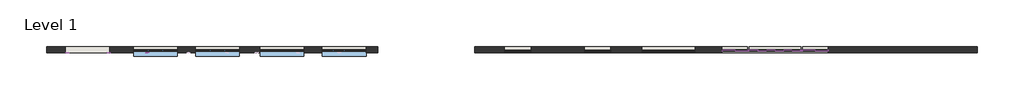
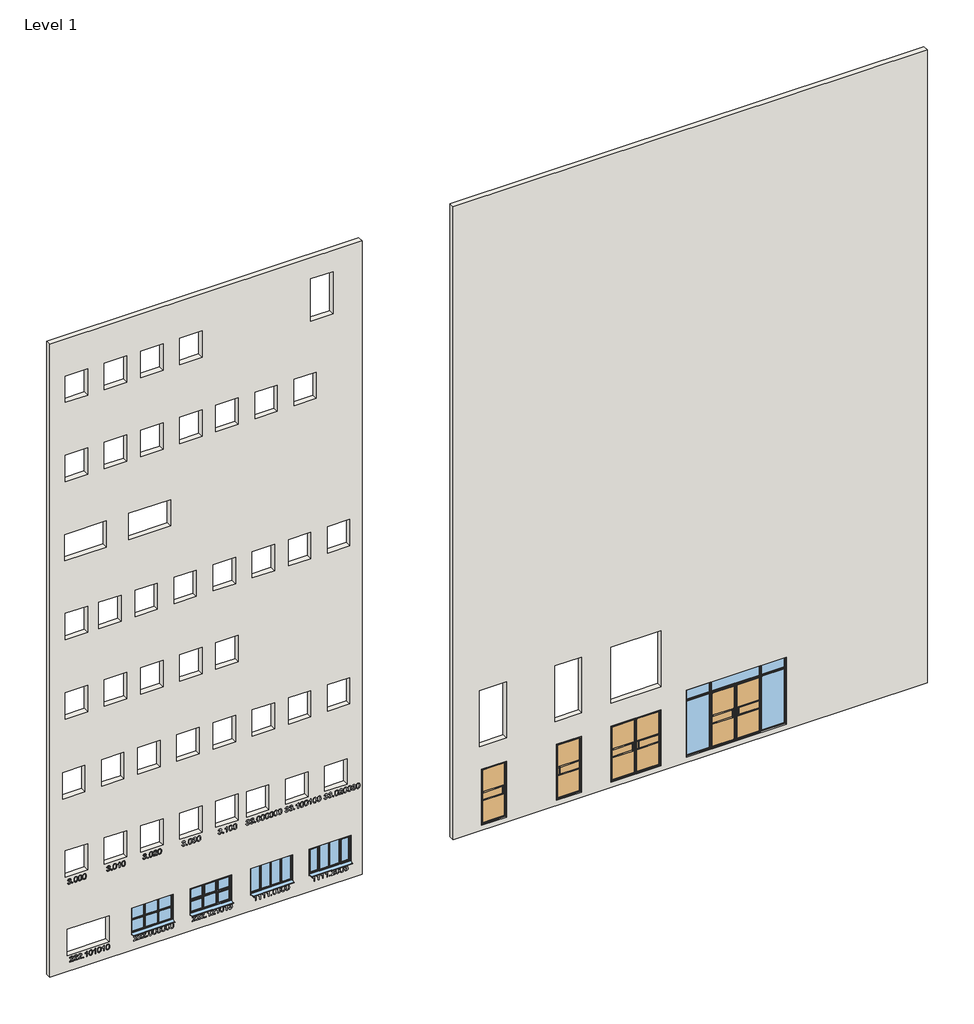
# One storey, part 1 of 3: 9 windows, 4 doors, 4 proxies, 2 walls.
"""IFC4 building model written with IfcOpenShell, lengths in millimetres."""

from ifc_helpers import new_model, si_unit, frame, origin, place, context, project, spatial, polyline, outline, extrude, transform, mapped, element, save
from components import double_445c4c4e, double_5f8e8586, lefthung_f528802b, righthung_34a7d7e6, standard_2bda3373, standard_ae8fd62b, standard_7249c8dd, standard_2_70366785, standard_2_7d086ee7, standard_2_23cd1c4a, standard_2_e57bb09f, standard_2_e56fe06b

model = new_model("IFC4")

# Units and contexts
model_context = context("Model", 3, world=origin())
ifc_project = project(units=[si_unit("LENGTHUNIT", "METRE", prefix="MILLI")], contexts=[model_context])

# Site, building, storey
site = spatial("IfcSite", under=ifc_project)
building = spatial("IfcBuilding", under=site)
storey = spatial("IfcBuildingStorey", under=building, Name="Level 1", Elevation=0.0)

# Proxies
placement = place(None, origin())
element("IfcBuildingElementProxy", 1, Name="200mm Arial", ObjectType="200mm Arial", at=placement, inside=storey, context=model_context, shape_type="SweptSolid", body=[
    extrude(outline(polyline([(3021.5066745, -171148.5681121), (2998.8083554, -171142.3509064), (2980.7453494, -171128.6043825), (2968.9363373, -171108.8368566), (2965.0, -171084.5566449), (2969.6107877, -171057.713522), (2983.4431507, -171035.9471706), (3003.8973896, -171021.5261964), (3028.373805, -171016.719205), (3046.3509719, -171019.1227007), (3061.0417262, -171026.3331878), (3071.8574569, -171037.9827843), (3078.2095526, -171053.7036082), (3085.456828, -171041.7351807), (3094.8378188, -171033.1022165), (3105.8497532, -171027.8782922), (3117.9898591, -171026.1369841), (3131.0190131, -171027.9702627), (3143.3246658, -171033.4700985), (3154.0055064, -171042.4341565), (3162.1602239, -171054.6601014), (3167.328966, -171069.1607834), (3169.05188, -171084.9490524), (3165.557001, -171106.8748193), (3155.0723642, -171124.8765116), (3138.2356315, -171138.0344243), (3115.6844652, -171145.4288524), (3112.5452055, -171120.3147748), (3126.2794667, -171115.8634027), (3136.0896532, -171108.0029907), (3141.9757651, -171097.236311), (3143.9378025, -171084.0661356), (3141.9941592, -171070.9204856), (3136.1632296, -171060.423586), (3127.3647186, -171053.5441927), (3116.5183311, -171051.2510616), (3103.4953085, -171054.4148468), (3094.3473095, -171063.9062022), (3088.9394442, -171077.3584205), (3087.1368224, -171092.4047941), (3087.431128, -171096.4269706), (3062.3170505, -171099.2228738), (3065.0639027, -171081.6135889), (3062.4948601, -171065.8191886), (3054.7877323, -171053.0659461), (3043.1565299, -171044.6414484), (3028.8152634, -171041.8332825), (3013.7075762, -171044.6659739), (3001.2486393, -171053.164048), (2992.897718, -171066.4568507), (2990.1140775, -171083.6737281), (2992.1374285, -171098.3460884), (2998.2074814, -171109.597146), (3008.8637966, -171117.8315714), (3024.6459342, -171123.4540345), (3021.5066745, -171148.5681121)])), frame((0.0, 24202.6264647, 0.0), z_axis=(0.0, 1.0, 0.0), x_axis=(0.0, 0.0, 1.0)), (0.0, 0.0, 1.0), 10.0),
    extrude(outline(polyline([(-170957.0732708, 24202.6264647), (-170982.1873484, 24202.6264647), (-170982.1873484, 24212.6264647), (-170957.0732708, 24212.6264647), (-170957.0732708, 24202.6264647)])), frame((0.0, 0.0, 2968.1392597), z_axis=(0.0, 0.0, 1.0), x_axis=(1.0, 0.0, 0.0)), (0.0, 0.0, 1.0), 25.1140775),
    extrude(outline(polyline([(3066.9768891, -170916.2628949), (3018.1098974, -170911.2596997), (2999.2590108, -170905.0057058), (2984.1298637, -170896.2501143), (2969.7824659, -170876.4335375), (2965.0, -170850.3384413), (2967.7529836, -170830.0374865), (2976.0119344, -170813.5747673), (2989.8688229, -170800.8399189), (3009.4156196, -170791.7225768), (3035.0018123, -170786.241135), (3066.9768891, -170784.4139878), (3114.1884118, -170788.9757245), (3143.913277, -170800.7479484), (3154.6738253, -170809.4177007), (3162.5771569, -170821.0059836), (3167.4331992, -170834.8628721), (3169.05188, -170850.3384413), (3166.3172905, -170870.5290315), (3158.113522, -170886.9549626), (3144.3118158, -170899.7082051), (3124.7834132, -170908.8807295), (3099.1359068, -170914.4173535), (3066.9768891, -170916.2628949)]), holes=[polyline([(3067.02594, -170891.1488173), (3106.0214315, -170888.1076595), (3130.4978469, -170878.984186), (3140.5778136, -170866.3535708), (3143.9378025, -170850.6327469), (3140.1240924, -170834.0290062), (3128.6829624, -170820.9078817), (3105.6412868, -170812.3730194), (3067.02594, -170809.5280653), (3027.5828587, -170812.4711213), (3004.70673, -170821.3002892), (2993.7622407, -170834.4459391), (2990.1140775, -170850.3384413), (2993.7499779, -170866.2309435), (3004.6576791, -170879.3765935), (3027.5215451, -170888.2057614), (3067.02594, -170891.1488173)])]), frame((0.0, 24202.6264647, 0.0), z_axis=(0.0, 1.0, 0.0), x_axis=(0.0, 0.0, 1.0)), (0.0, 0.0, 1.0), 10.0),
    extrude(outline(polyline([(3066.9768891, -170762.4391699), (3018.1098974, -170757.4359748), (2999.2590108, -170751.1819809), (2984.1298637, -170742.4263894), (2969.7824659, -170722.6098126), (2965.0, -170696.5147164), (2967.7529836, -170676.2137616), (2976.0119344, -170659.7510423), (2989.8688229, -170647.0161939), (3009.4156196, -170637.8988518), (3035.0018123, -170632.4174101), (3066.9768891, -170630.5902629), (3114.1884118, -170635.1519996), (3143.913277, -170646.9242234), (3154.6738253, -170655.5939758), (3162.5771569, -170667.1822587), (3167.4331992, -170681.0391471), (3169.05188, -170696.5147164), (3166.3172905, -170716.7053066), (3158.113522, -170733.1312377), (3144.3118158, -170745.8844802), (3124.7834132, -170755.0570046), (3099.1359068, -170760.5936286), (3066.9768891, -170762.4391699)]), holes=[polyline([(3067.02594, -170737.3250924), (3106.0214315, -170734.2839346), (3130.4978469, -170725.1604611), (3140.5778136, -170712.5298459), (3143.9378025, -170696.809022), (3140.1240924, -170680.2052813), (3128.6829624, -170667.0841568), (3105.6412868, -170658.5492945), (3067.02594, -170655.7043404), (3027.5828587, -170658.6473964), (3004.70673, -170667.4765642), (2993.7622407, -170680.6222142), (2990.1140775, -170696.5147164), (2993.7499779, -170712.4072186), (3004.6576791, -170725.5528686), (3027.5215451, -170734.3820364), (3067.02594, -170737.3250924)])]), frame((0.0, 24202.6264647, 0.0), z_axis=(0.0, 1.0, 0.0), x_axis=(0.0, 0.0, 1.0)), (0.0, 0.0, 1.0), 10.0),
    extrude(outline(polyline([(3066.9768891, -170608.615445), (3018.1098974, -170603.6122499), (2999.2590108, -170597.358256), (2984.1298637, -170588.6026645), (2969.7824659, -170568.7860877), (2965.0, -170542.6909915), (2967.7529836, -170522.3900367), (2976.0119344, -170505.9273174), (2989.8688229, -170493.192469), (3009.4156196, -170484.0751269), (3035.0018123, -170478.5936852), (3066.9768891, -170476.7665379), (3114.1884118, -170481.3282747), (3143.913277, -170493.1004985), (3154.6738253, -170501.7702509), (3162.5771569, -170513.3585337), (3167.4331992, -170527.2154222), (3169.05188, -170542.6909915), (3166.3172905, -170562.8815817), (3158.113522, -170579.3075127), (3144.3118158, -170592.0607552), (3124.7834132, -170601.2332796), (3099.1359068, -170606.7699037), (3066.9768891, -170608.615445)]), holes=[polyline([(3067.02594, -170583.5013675), (3106.0214315, -170580.4602097), (3130.4978469, -170571.3367362), (3140.5778136, -170558.706121), (3143.9378025, -170542.9852971), (3140.1240924, -170526.3815564), (3128.6829624, -170513.2604319), (3105.6412868, -170504.7255696), (3067.02594, -170501.8806155), (3027.5828587, -170504.8236714), (3004.70673, -170513.6528393), (2993.7622407, -170526.7984893), (2990.1140775, -170542.6909915), (2993.7499779, -170558.5834937), (3004.6576791, -170571.7291436), (3027.5215451, -170580.5583115), (3067.02594, -170583.5013675)])]), frame((0.0, 24202.6264647, 0.0), z_axis=(0.0, 1.0, 0.0), x_axis=(0.0, 0.0, 1.0)), (0.0, 0.0, 1.0), 10.0),
])
element("IfcBuildingElementProxy", 2, Name="200mm Arial", ObjectType="200mm Arial", at=placement, inside=storey, context=model_context, shape_type="SweptSolid", body=[
    extrude(outline(polyline([(3021.5066745, -169748.5681121), (2998.8083554, -169742.3509064), (2980.7453494, -169728.6043825), (2968.9363373, -169708.8368566), (2965.0, -169684.5566449), (2969.6107877, -169657.713522), (2983.4431507, -169635.9471706), (3003.8973896, -169621.5261964), (3028.373805, -169616.719205), (3046.3509719, -169619.1227007), (3061.0417262, -169626.3331878), (3071.8574569, -169637.9827843), (3078.2095526, -169653.7036082), (3085.456828, -169641.7351807), (3094.8378188, -169633.1022165), (3105.8497532, -169627.8782922), (3117.9898591, -169626.1369841), (3131.0190131, -169627.9702627), (3143.3246658, -169633.4700985), (3154.0055064, -169642.4341565), (3162.1602239, -169654.6601014), (3167.328966, -169669.1607834), (3169.05188, -169684.9490524), (3165.557001, -169706.8748193), (3155.0723642, -169724.8765116), (3138.2356315, -169738.0344243), (3115.6844652, -169745.4288524), (3112.5452055, -169720.3147748), (3126.2794667, -169715.8634027), (3136.0896532, -169708.0029907), (3141.9757651, -169697.236311), (3143.9378025, -169684.0661356), (3141.9941592, -169670.9204856), (3136.1632296, -169660.423586), (3127.3647186, -169653.5441927), (3116.5183311, -169651.2510616), (3103.4953085, -169654.4148468), (3094.3473095, -169663.9062022), (3088.9394442, -169677.3584205), (3087.1368224, -169692.4047941), (3087.431128, -169696.4269706), (3062.3170505, -169699.2228738), (3065.0639027, -169681.6135889), (3062.4948601, -169665.8191886), (3054.7877323, -169653.0659461), (3043.1565299, -169644.6414484), (3028.8152634, -169641.8332825), (3013.7075762, -169644.6659739), (3001.2486393, -169653.164048), (2992.897718, -169666.4568507), (2990.1140775, -169683.6737281), (2992.1374285, -169698.3460884), (2998.2074814, -169709.597146), (3008.8637966, -169717.8315714), (3024.6459342, -169723.4540345), (3021.5066745, -169748.5681121)])), frame((0.0, 24202.6264647, 0.0), z_axis=(0.0, 1.0, 0.0), x_axis=(0.0, 0.0, 1.0)), (0.0, 0.0, 1.0), 10.0),
    extrude(outline(polyline([(-169557.0732708, 24202.6264647), (-169582.1873484, 24202.6264647), (-169582.1873484, 24212.6264647), (-169557.0732708, 24212.6264647), (-169557.0732708, 24202.6264647)])), frame((0.0, 0.0, 2968.1392597), z_axis=(0.0, 0.0, 1.0), x_axis=(1.0, 0.0, 0.0)), (0.0, 0.0, 1.0), 25.1140775),
    extrude(outline(polyline([(3066.9768891, -169516.2628949), (3018.1098974, -169511.2596997), (2999.2590108, -169505.0057058), (2984.1298637, -169496.2501143), (2969.7824659, -169476.4335375), (2965.0, -169450.3384413), (2967.7529836, -169430.0374865), (2976.0119344, -169413.5747673), (2989.8688229, -169400.8399189), (3009.4156196, -169391.7225768), (3035.0018123, -169386.241135), (3066.9768891, -169384.4139878), (3114.1884118, -169388.9757245), (3143.913277, -169400.7479484), (3154.6738253, -169409.4177007), (3162.5771569, -169421.0059836), (3167.4331992, -169434.8628721), (3169.05188, -169450.3384413), (3166.3172905, -169470.5290315), (3158.113522, -169486.9549626), (3144.3118158, -169499.7082051), (3124.7834132, -169508.8807295), (3099.1359068, -169514.4173535), (3066.9768891, -169516.2628949)]), holes=[polyline([(3067.02594, -169491.1488173), (3106.0214315, -169488.1076595), (3130.4978469, -169478.984186), (3140.5778136, -169466.3535708), (3143.9378025, -169450.6327469), (3140.1240924, -169434.0290062), (3128.6829624, -169420.9078817), (3105.6412868, -169412.3730194), (3067.02594, -169409.5280653), (3027.5828587, -169412.4711213), (3004.70673, -169421.3002892), (2993.7622407, -169434.4459391), (2990.1140775, -169450.3384413), (2993.7499779, -169466.2309435), (3004.6576791, -169479.3765935), (3027.5215451, -169488.2057614), (3067.02594, -169491.1488173)])]), frame((0.0, 24202.6264647, 0.0), z_axis=(0.0, 1.0, 0.0), x_axis=(0.0, 0.0, 1.0)), (0.0, 0.0, 1.0), 10.0),
    extrude(outline(polyline([(2968.1392597, -169268.2613792), (3169.05188, -169268.2613792), (3169.05188, -169284.448187), (3155.8939673, -169293.3202744), (3142.3191217, -169306.7908868), (3118.8237249, -169343.6036118), (3095.0830735, -169343.6036118), (3107.7627396, -169317.1651591), (3124.7098368, -169293.3754567), (2968.1392597, -169293.3754567), (2968.1392597, -169268.2613792)])), frame((0.0, 24202.6264647, 0.0), z_axis=(0.0, 1.0, 0.0), x_axis=(0.0, 0.0, 1.0)), (0.0, 0.0, 1.0), 10.0),
    extrude(outline(polyline([(3066.9768891, -169208.615445), (3018.1098974, -169203.6122499), (2999.2590108, -169197.358256), (2984.1298637, -169188.6026645), (2969.7824659, -169168.7860877), (2965.0, -169142.6909915), (2967.7529836, -169122.3900367), (2976.0119344, -169105.9273174), (2989.8688229, -169093.192469), (3009.4156196, -169084.0751269), (3035.0018123, -169078.5936852), (3066.9768891, -169076.7665379), (3114.1884118, -169081.3282747), (3143.913277, -169093.1004985), (3154.6738253, -169101.7702509), (3162.5771569, -169113.3585337), (3167.4331992, -169127.2154222), (3169.05188, -169142.6909915), (3166.3172905, -169162.8815817), (3158.113522, -169179.3075127), (3144.3118158, -169192.0607552), (3124.7834132, -169201.2332796), (3099.1359068, -169206.7699037), (3066.9768891, -169208.615445)]), holes=[polyline([(3067.02594, -169183.5013675), (3106.0214315, -169180.4602097), (3130.4978469, -169171.3367362), (3140.5778136, -169158.706121), (3143.9378025, -169142.9852971), (3140.1240924, -169126.3815564), (3128.6829624, -169113.2604319), (3105.6412868, -169104.7255696), (3067.02594, -169101.8806155), (3027.5828587, -169104.8236714), (3004.70673, -169113.6528393), (2993.7622407, -169126.7984893), (2990.1140775, -169142.6909915), (2993.7499779, -169158.5834937), (3004.6576791, -169171.7291436), (3027.5215451, -169180.5583115), (3067.02594, -169183.5013675)])]), frame((0.0, 24202.6264647, 0.0), z_axis=(0.0, 1.0, 0.0), x_axis=(0.0, 0.0, 1.0)), (0.0, 0.0, 1.0), 10.0),
])
element("IfcBuildingElementProxy", 3, Name="200mm Arial", ObjectType="200mm Arial", at=placement, inside=storey, context=model_context, shape_type="SweptSolid", body=[
    extrude(outline(polyline([(3021.5066745, -168448.5681121), (2998.8083554, -168442.3509064), (2980.7453494, -168428.6043825), (2968.9363373, -168408.8368566), (2965.0, -168384.5566449), (2969.6107877, -168357.713522), (2983.4431507, -168335.9471706), (3003.8973896, -168321.5261964), (3028.373805, -168316.719205), (3046.3509719, -168319.1227007), (3061.0417262, -168326.3331878), (3071.8574569, -168337.9827843), (3078.2095526, -168353.7036082), (3085.456828, -168341.7351807), (3094.8378188, -168333.1022165), (3105.8497532, -168327.8782922), (3117.9898591, -168326.1369841), (3131.0190131, -168327.9702627), (3143.3246658, -168333.4700985), (3154.0055064, -168342.4341565), (3162.1602239, -168354.6601014), (3167.328966, -168369.1607834), (3169.05188, -168384.9490524), (3165.557001, -168406.8748193), (3155.0723642, -168424.8765116), (3138.2356315, -168438.0344243), (3115.6844652, -168445.4288524), (3112.5452055, -168420.3147748), (3126.2794667, -168415.8634027), (3136.0896532, -168408.0029907), (3141.9757651, -168397.236311), (3143.9378025, -168384.0661356), (3141.9941592, -168370.9204856), (3136.1632296, -168360.423586), (3127.3647186, -168353.5441927), (3116.5183311, -168351.2510616), (3103.4953085, -168354.4148468), (3094.3473095, -168363.9062022), (3088.9394442, -168377.3584205), (3087.1368224, -168392.4047941), (3087.431128, -168396.4269706), (3062.3170505, -168399.2228738), (3065.0639027, -168381.6135889), (3062.4948601, -168365.8191886), (3054.7877323, -168353.0659461), (3043.1565299, -168344.6414484), (3028.8152634, -168341.8332825), (3013.7075762, -168344.6659739), (3001.2486393, -168353.164048), (2992.897718, -168366.4568507), (2990.1140775, -168383.6737281), (2992.1374285, -168398.3460884), (2998.2074814, -168409.597146), (3008.8637966, -168417.8315714), (3024.6459342, -168423.4540345), (3021.5066745, -168448.5681121)])), frame((0.0, 24202.6264647, 0.0), z_axis=(0.0, 1.0, 0.0), x_axis=(0.0, 0.0, 1.0)), (0.0, 0.0, 1.0), 10.0),
    extrude(outline(polyline([(-168257.0732708, 24202.6264647), (-168282.1873484, 24202.6264647), (-168282.1873484, 24212.6264647), (-168257.0732708, 24212.6264647), (-168257.0732708, 24202.6264647)])), frame((0.0, 0.0, 2968.1392597), z_axis=(0.0, 0.0, 1.0), x_axis=(1.0, 0.0, 0.0)), (0.0, 0.0, 1.0), 25.1140775),
    extrude(outline(polyline([(3066.9768891, -168216.2628949), (3018.1098974, -168211.2596997), (2999.2590108, -168205.0057058), (2984.1298637, -168196.2501143), (2969.7824659, -168176.4335375), (2965.0, -168150.3384413), (2967.7529836, -168130.0374865), (2976.0119344, -168113.5747673), (2989.8688229, -168100.8399189), (3009.4156196, -168091.7225768), (3035.0018123, -168086.241135), (3066.9768891, -168084.4139878), (3114.1884118, -168088.9757245), (3143.913277, -168100.7479484), (3154.6738253, -168109.4177007), (3162.5771569, -168121.0059836), (3167.4331992, -168134.8628721), (3169.05188, -168150.3384413), (3166.3172905, -168170.5290315), (3158.113522, -168186.9549626), (3144.3118158, -168199.7082051), (3124.7834132, -168208.8807295), (3099.1359068, -168214.4173535), (3066.9768891, -168216.2628949)]), holes=[polyline([(3067.02594, -168191.1488173), (3106.0214315, -168188.1076595), (3130.4978469, -168178.984186), (3140.5778136, -168166.3535708), (3143.9378025, -168150.6327469), (3140.1240924, -168134.0290062), (3128.6829624, -168120.9078817), (3105.6412868, -168112.3730194), (3067.02594, -168109.5280653), (3027.5828587, -168112.4711213), (3004.70673, -168121.3002892), (2993.7622407, -168134.4459391), (2990.1140775, -168150.3384413), (2993.7499779, -168166.2309435), (3004.6576791, -168179.3765935), (3027.5215451, -168188.2057614), (3067.02594, -168191.1488173)])]), frame((0.0, 24202.6264647, 0.0), z_axis=(0.0, 1.0, 0.0), x_axis=(0.0, 0.0, 1.0)), (0.0, 0.0, 1.0), 10.0),
    extrude(outline(polyline([(2993.2533372, -167933.7295226), (2993.2533372, -168032.3709482), (3006.0311052, -168021.0401827), (3030.1886895, -167992.1491834), (3064.5979188, -167956.1703243), (3089.221487, -167941.3324171), (3113.0357149, -167936.8687822), (3134.9369563, -167941.0074547), (3152.9631741, -167953.423472), (3165.0297035, -167972.9396119), (3169.05188, -167998.3786518), (3165.4343737, -168023.6337508), (3154.5818548, -168043.1866789), (3136.8376799, -168056.3507229), (3112.5452055, -168062.4391699), (3109.4059458, -168037.3250924), (3123.8391828, -168034.608897), (3134.765278, -168026.7546164), (3141.6446714, -168014.5838537), (3143.9378025, -167998.9182121), (3141.5894891, -167984.0005972), (3134.5445488, -167972.2099793), (3124.0905688, -167964.5396397), (3111.5151359, -167961.9828598), (3097.4865692, -167964.6929238), (3083.065595, -167972.8231159), (3041.2251494, -168016.1841404), (3012.1134208, -168047.6257883), (2985.4542389, -168062.8806283), (2968.1392597, -168065.5784296), (2968.1392597, -167933.7295226), (2993.2533372, -167933.7295226)])), frame((0.0, 24202.6264647, 0.0), z_axis=(0.0, 1.0, 0.0), x_axis=(0.0, 0.0, 1.0)), (0.0, 0.0, 1.0), 10.0),
    extrude(outline(polyline([(3066.9768891, -167908.615445), (3018.1098974, -167903.6122499), (2999.2590108, -167897.358256), (2984.1298637, -167888.6026645), (2969.7824659, -167868.7860877), (2965.0, -167842.6909915), (2967.7529836, -167822.3900367), (2976.0119344, -167805.9273174), (2989.8688229, -167793.192469), (3009.4156196, -167784.0751269), (3035.0018123, -167778.5936852), (3066.9768891, -167776.7665379), (3114.1884118, -167781.3282747), (3143.913277, -167793.1004985), (3154.6738253, -167801.7702509), (3162.5771569, -167813.3585337), (3167.4331992, -167827.2154222), (3169.05188, -167842.6909915), (3166.3172905, -167862.8815817), (3158.113522, -167879.3075127), (3144.3118158, -167892.0607552), (3124.7834132, -167901.2332796), (3099.1359068, -167906.7699037), (3066.9768891, -167908.615445)]), holes=[polyline([(3067.02594, -167883.5013675), (3106.0214315, -167880.4602097), (3130.4978469, -167871.3367362), (3140.5778136, -167858.706121), (3143.9378025, -167842.9852971), (3140.1240924, -167826.3815564), (3128.6829624, -167813.2604319), (3105.6412868, -167804.7255696), (3067.02594, -167801.8806155), (3027.5828587, -167804.8236714), (3004.70673, -167813.6528393), (2993.7622407, -167826.7984893), (2990.1140775, -167842.6909915), (2993.7499779, -167858.5834937), (3004.6576791, -167871.7291436), (3027.5215451, -167880.5583115), (3067.02594, -167883.5013675)])]), frame((0.0, 24202.6264647, 0.0), z_axis=(0.0, 1.0, 0.0), x_axis=(0.0, 0.0, 1.0)), (0.0, 0.0, 1.0), 10.0),
])
element("IfcBuildingElementProxy", 4, Name="200mm Arial", ObjectType="200mm Arial", at=placement, inside=storey, context=model_context, shape_type="SweptSolid", body=[
    extrude(outline(polyline([(28.2533372, -170948.8584647), (28.2533372, -171047.4998903), (41.0311052, -171036.1691249), (65.1886895, -171007.2781255), (99.5979188, -170971.2992664), (124.221487, -170956.4613593), (148.0357149, -170951.9977244), (169.9369563, -170956.1363968), (187.9631741, -170968.5524142), (200.0297035, -170988.068554), (204.05188, -171013.507594), (200.4343737, -171038.7626929), (189.5818548, -171058.315621), (171.8376799, -171071.4796651), (147.5452055, -171077.5681121), (144.4059458, -171052.4540345), (158.8391828, -171049.7378391), (169.765278, -171041.8835585), (176.6446714, -171029.7127959), (178.9378025, -171014.0471542), (176.5894891, -170999.1295393), (169.5445488, -170987.3389214), (159.0905688, -170979.6685818), (146.5151359, -170977.1118019), (132.4865692, -170979.821866), (118.065595, -170987.952058), (76.2251494, -171031.3130825), (47.1134208, -171062.7547304), (20.4542389, -171078.0095705), (3.1392597, -171080.7073718), (3.1392597, -170948.8584647), (28.2533372, -170948.8584647)])), frame((0.0, 24202.6264647, 0.0), z_axis=(0.0, 1.0, 0.0), x_axis=(0.0, 0.0, 1.0)), (0.0, 0.0, 1.0), 10.0),
    extrude(outline(polyline([(28.2533372, -170795.0347398), (28.2533372, -170893.6761654), (41.0311052, -170882.3454), (65.1886895, -170853.4544006), (99.5979188, -170817.4755415), (124.221487, -170802.6376343), (148.0357149, -170798.1739995), (169.9369563, -170802.3126719), (187.9631741, -170814.7286893), (200.0297035, -170834.2448291), (204.05188, -170859.6838691), (200.4343737, -170884.938968), (189.5818548, -170904.4918961), (171.8376799, -170917.6559401), (147.5452055, -170923.7443872), (144.4059458, -170898.6303096), (158.8391828, -170895.9141142), (169.765278, -170888.0598336), (176.6446714, -170875.8890709), (178.9378025, -170860.2234293), (176.5894891, -170845.3058144), (169.5445488, -170833.5151965), (159.0905688, -170825.8448569), (146.5151359, -170823.288077), (132.4865692, -170825.998141), (118.065595, -170834.1283331), (76.2251494, -170877.4893576), (47.1134208, -170908.9310055), (20.4542389, -170924.1858455), (3.1392597, -170926.8836468), (3.1392597, -170795.0347398), (28.2533372, -170795.0347398)])), frame((0.0, 24202.6264647, 0.0), z_axis=(0.0, 1.0, 0.0), x_axis=(0.0, 0.0, 1.0)), (0.0, 0.0, 1.0), 10.0),
    extrude(outline(polyline([(28.2533372, -170641.2110149), (28.2533372, -170739.8524405), (41.0311052, -170728.521675), (65.1886895, -170699.6306757), (99.5979188, -170663.6518166), (124.221487, -170648.8139094), (148.0357149, -170644.3502746), (169.9369563, -170648.488947), (187.9631741, -170660.9049643), (200.0297035, -170680.4211042), (204.05188, -170705.8601441), (200.4343737, -170731.1152431), (189.5818548, -170750.6681712), (171.8376799, -170763.8322152), (147.5452055, -170769.9206622), (144.4059458, -170744.8065847), (158.8391828, -170742.0903893), (169.765278, -170734.2361087), (176.6446714, -170722.065346), (178.9378025, -170706.3997044), (176.5894891, -170691.4820895), (169.5445488, -170679.6914716), (159.0905688, -170672.021132), (146.5151359, -170669.4643521), (132.4865692, -170672.1744161), (118.065595, -170680.3046082), (76.2251494, -170723.6656327), (47.1134208, -170755.1072806), (20.4542389, -170770.3621206), (3.1392597, -170773.0599219), (3.1392597, -170641.2110149), (28.2533372, -170641.2110149)])), frame((0.0, 24202.6264647, 0.0), z_axis=(0.0, 1.0, 0.0), x_axis=(0.0, 0.0, 1.0)), (0.0, 0.0, 1.0), 10.0),
    extrude(outline(polyline([(-170578.425821, 24202.6264647), (-170603.5398986, 24202.6264647), (-170603.5398986, 24212.6264647), (-170578.425821, 24212.6264647), (-170578.425821, 24202.6264647)])), frame((0.0, 0.0, 3.1392597), z_axis=(0.0, 0.0, 1.0), x_axis=(1.0, 0.0, 0.0)), (0.0, 0.0, 1.0), 25.1140775),
    extrude(outline(polyline([(3.1392597, -170443.4376543), (204.05188, -170443.4376543), (204.05188, -170459.624462), (190.8939673, -170468.4965495), (177.3191217, -170481.9671619), (153.8237249, -170518.7798869), (130.0830735, -170518.7798869), (142.7627396, -170492.3414341), (159.7098368, -170468.5517318), (3.1392597, -170468.5517318), (3.1392597, -170443.4376543)])), frame((0.0, 24202.6264647, 0.0), z_axis=(0.0, 1.0, 0.0), x_axis=(0.0, 0.0, 1.0)), (0.0, 0.0, 1.0), 10.0),
    extrude(outline(polyline([(101.9768891, -170383.7917201), (53.1098974, -170378.788525), (34.2590108, -170372.534531), (19.1298637, -170363.7789396), (4.7824659, -170343.9623628), (0.0, -170317.8672666), (2.7529836, -170297.5663118), (11.0119344, -170281.1035925), (24.8688229, -170268.3687441), (44.4156196, -170259.251402), (70.0018123, -170253.7699603), (101.9768891, -170251.942813), (149.1884118, -170256.5045498), (178.913277, -170268.2767736), (189.6738253, -170276.946526), (197.5771569, -170288.5348088), (202.4331992, -170302.3916973), (204.05188, -170317.8672666), (201.3172905, -170338.0578567), (193.113522, -170354.4837878), (179.3118158, -170367.2370303), (159.7834132, -170376.4095547), (134.1359068, -170381.9461788), (101.9768891, -170383.7917201)]), holes=[polyline([(102.02594, -170358.6776426), (141.0214315, -170355.6364847), (165.4978469, -170346.5130113), (175.5778136, -170333.8823961), (178.9378025, -170318.1615722), (175.1240924, -170301.5578314), (163.6829624, -170288.436707), (140.6412868, -170279.9018447), (102.02594, -170277.0568906), (62.5828587, -170279.9999465), (39.70673, -170288.8291144), (28.7622407, -170301.9747644), (25.1140775, -170317.8672666), (28.7499779, -170333.7597688), (39.6576791, -170346.9054187), (62.5215451, -170355.7345866), (102.02594, -170358.6776426)])]), frame((0.0, 24202.6264647, 0.0), z_axis=(0.0, 1.0, 0.0), x_axis=(0.0, 0.0, 1.0)), (0.0, 0.0, 1.0), 10.0),
    extrude(outline(polyline([(3.1392597, -170135.7902044), (204.05188, -170135.7902044), (204.05188, -170151.9770122), (190.8939673, -170160.8490997), (177.3191217, -170174.319712), (153.8237249, -170211.132437), (130.0830735, -170211.132437), (142.7627396, -170184.6939843), (159.7098368, -170160.904282), (3.1392597, -170160.904282), (3.1392597, -170135.7902044)])), frame((0.0, 24202.6264647, 0.0), z_axis=(0.0, 1.0, 0.0), x_axis=(0.0, 0.0, 1.0)), (0.0, 0.0, 1.0), 10.0),
    extrude(outline(polyline([(101.9768891, -170076.1442703), (53.1098974, -170071.1410751), (34.2590108, -170064.8870812), (19.1298637, -170056.1314897), (4.7824659, -170036.3149129), (0.0, -170010.2198167), (2.7529836, -169989.918862), (11.0119344, -169973.4561427), (24.8688229, -169960.7212943), (44.4156196, -169951.6039522), (70.0018123, -169946.1225104), (101.9768891, -169944.2953632), (149.1884118, -169948.8570999), (178.913277, -169960.6293238), (189.6738253, -169969.2990761), (197.5771569, -169980.887359), (202.4331992, -169994.7442475), (204.05188, -170010.2198167), (201.3172905, -170030.4104069), (193.113522, -170046.836338), (179.3118158, -170059.5895805), (159.7834132, -170068.7621049), (134.1359068, -170074.2987289), (101.9768891, -170076.1442703)]), holes=[polyline([(102.02594, -170051.0301927), (141.0214315, -170047.9890349), (165.4978469, -170038.8655614), (175.5778136, -170026.2349463), (178.9378025, -170010.5141223), (175.1240924, -169993.9103816), (163.6829624, -169980.7892571), (140.6412868, -169972.2543948), (102.02594, -169969.4094407), (62.5828587, -169972.3524967), (39.70673, -169981.1816646), (28.7622407, -169994.3273145), (25.1140775, -170010.2198167), (28.7499779, -170026.1123189), (39.6576791, -170039.2579689), (62.5215451, -170048.0871368), (102.02594, -170051.0301927)])]), frame((0.0, 24202.6264647, 0.0), z_axis=(0.0, 1.0, 0.0), x_axis=(0.0, 0.0, 1.0)), (0.0, 0.0, 1.0), 10.0),
    extrude(outline(polyline([(3.1392597, -169828.1427546), (204.05188, -169828.1427546), (204.05188, -169844.3295624), (190.8939673, -169853.2016498), (177.3191217, -169866.6722622), (153.8237249, -169903.4849872), (130.0830735, -169903.4849872), (142.7627396, -169877.0465345), (159.7098368, -169853.2568321), (3.1392597, -169853.2568321), (3.1392597, -169828.1427546)])), frame((0.0, 24202.6264647, 0.0), z_axis=(0.0, 1.0, 0.0), x_axis=(0.0, 0.0, 1.0)), (0.0, 0.0, 1.0), 10.0),
    extrude(outline(polyline([(101.9768891, -169768.4968204), (53.1098974, -169763.4936253), (34.2590108, -169757.2396314), (19.1298637, -169748.4840399), (4.7824659, -169728.6674631), (0.0, -169702.5723669), (2.7529836, -169682.2714121), (11.0119344, -169665.8086928), (24.8688229, -169653.0738444), (44.4156196, -169643.9565023), (70.0018123, -169638.4750606), (101.9768891, -169636.6479134), (149.1884118, -169641.2096501), (178.913277, -169652.9818739), (189.6738253, -169661.6516263), (197.5771569, -169673.2399092), (202.4331992, -169687.0967976), (204.05188, -169702.5723669), (201.3172905, -169722.7629571), (193.113522, -169739.1888882), (179.3118158, -169751.9421307), (159.7834132, -169761.1146551), (134.1359068, -169766.6512791), (101.9768891, -169768.4968204)]), holes=[polyline([(102.02594, -169743.3827429), (141.0214315, -169740.3415851), (165.4978469, -169731.2181116), (175.5778136, -169718.5874964), (178.9378025, -169702.8666725), (175.1240924, -169686.2629318), (163.6829624, -169673.1418073), (140.6412868, -169664.606945), (102.02594, -169661.7619909), (62.5828587, -169664.7050469), (39.70673, -169673.5342147), (28.7622407, -169686.6798647), (25.1140775, -169702.5723669), (28.7499779, -169718.4648691), (39.6576791, -169731.6105191), (62.5215451, -169740.4396869), (102.02594, -169743.3827429)])]), frame((0.0, 24202.6264647, 0.0), z_axis=(0.0, 1.0, 0.0), x_axis=(0.0, 0.0, 1.0)), (0.0, 0.0, 1.0), 10.0),
])

# Doors
double_shape = double_445c4c4e(model_context)
element("IfcDoor", 5, ObjectType="SMARTS_HeritageDoor : Double", at=placement, inside=storey, context=model_context, shape_type="MappedRepresentation", body=[
    mapped(double_shape, transform((-147151.6821009, 24312.6264647, -785.0), x_axis=(1.0, 0.0, 0.0), y_axis=(0.0, 1.0, 0.0), z_axis=(0.0, 0.0, 1.0))),
])
double_2_shape = double_5f8e8586(model_context)
element("IfcDoor", 6, ObjectType="SMARTS_HeritageDoor : Double", at=placement, inside=storey, context=model_context, shape_type="MappedRepresentation", body=[
    mapped(double_2_shape, transform((-150751.6821009, 24312.6264647, -785.0), x_axis=(1.0, 0.0, 0.0), y_axis=(0.0, 1.0, 0.0), z_axis=(0.0, 0.0, 1.0))),
])
lefthung_shape = lefthung_f528802b(model_context)
element("IfcDoor", 7, ObjectType="SMARTS_HeritageDoor : LeftHung", at=placement, inside=storey, context=model_context, shape_type="MappedRepresentation", body=[
    mapped(lefthung_shape, transform((-155851.6821009, 24312.6264647, -785.0), x_axis=(1.0, 0.0, 0.0), y_axis=(0.0, 1.0, 0.0), z_axis=(0.0, 0.0, 1.0))),
])
righthung_shape = righthung_34a7d7e6(model_context)
element("IfcDoor", 8, ObjectType="SMARTS_HeritageDoor : RightHung", at=placement, inside=storey, context=model_context, shape_type="MappedRepresentation", body=[
    mapped(righthung_shape, transform((-153151.6821009, 24312.6264647, -785.0), x_axis=(1.0, 0.0, 0.0), y_axis=(0.0, 1.0, 0.0), z_axis=(0.0, 0.0, 1.0))),
])

# Walls
element("IfcWall", 9, ObjectType="Generic - 200mm", at=placement, inside=storey, context=model_context, shape_type="SweptSolid", body=[
    extrude(outline(polyline([(-331.1815188, -171783.3801149), (-331.1815188, -160583.3801149), (23668.8184812, -160583.3801149), (23668.8184812, -171783.3801149), (-331.1815188, -171783.3801149)]), holes=[polyline([(1268.8184812, -169652.3801149), (268.8184812, -169652.3801149), (268.8184812, -171152.3801149), (1268.8184812, -171152.3801149), (1268.8184812, -169652.3801149)]), polyline([(13268.8184812, -170423.3801149), (12268.8184812, -170423.3801149), (12268.8184812, -171223.3801149), (13268.8184812, -171223.3801149), (13268.8184812, -170423.3801149)]), polyline([(13268.8184812, -169223.3801149), (12268.8184812, -169223.3801149), (12268.8184812, -170023.3801149), (13268.8184812, -170023.3801149), (13268.8184812, -169223.3801149)]), polyline([(13268.8184812, -167923.3801149), (12268.8184812, -167923.3801149), (12268.8184812, -168723.3801149), (13268.8184812, -168723.3801149), (13268.8184812, -167923.3801149)]), polyline([(13268.8184812, -166523.3801149), (12268.8184812, -166523.3801149), (12268.8184812, -167323.3801149), (13268.8184812, -167323.3801149), (13268.8184812, -166523.3801149)]), polyline([(13268.8184812, -165123.3801149), (12268.8184812, -165123.3801149), (12268.8184812, -165923.3801149), (13268.8184812, -165923.3801149), (13268.8184812, -165123.3801149)]), polyline([(13268.8184812, -163723.3801149), (12268.8184812, -163723.3801149), (12268.8184812, -164523.3801149), (13268.8184812, -164523.3801149), (13268.8184812, -163723.3801149)]), polyline([(13268.8184812, -162423.3801149), (12268.8184812, -162423.3801149), (12268.8184812, -163223.3801149), (13268.8184812, -163223.3801149), (13268.8184812, -162423.3801149)]), polyline([(13268.8184812, -161023.3801149), (12268.8184812, -161023.3801149), (12268.8184812, -161823.3801149), (13268.8184812, -161823.3801149), (13268.8184812, -161023.3801149)]), polyline([(4268.8184812, -170423.3801149), (3268.8184812, -170423.3801149), (3268.8184812, -171223.3801149), (4268.8184812, -171223.3801149), (4268.8184812, -170423.3801149)]), polyline([(4268.8184812, -169023.3801149), (3268.8184812, -169023.3801149), (3268.8184812, -169823.3801149), (4268.8184812, -169823.3801149), (4268.8184812, -169023.3801149)]), polyline([(4268.8184812, -167723.3801149), (3268.8184812, -167723.3801149), (3268.8184812, -168523.3801149), (4268.8184812, -168523.3801149), (4268.8184812, -167723.3801149)]), polyline([(4268.8184812, -166323.3801149), (3268.8184812, -166323.3801149), (3268.8184812, -167123.3801149), (4268.8184812, -167123.3801149), (4268.8184812, -166323.3801149)]), polyline([(19268.8184812, -165023.3801149), (18268.8184812, -165023.3801149), (18268.8184812, -165823.3801149), (19268.8184812, -165823.3801149), (19268.8184812, -165023.3801149)]), polyline([(19268.8184812, -166323.3801149), (18268.8184812, -166323.3801149), (18268.8184812, -167123.3801149), (19268.8184812, -167123.3801149), (19268.8184812, -166323.3801149)]), polyline([(19268.8184812, -163623.3801149), (18268.8184812, -163623.3801149), (18268.8184812, -164423.3801149), (19268.8184812, -164423.3801149), (19268.8184812, -163623.3801149)]), polyline([(19268.8184812, -162223.3801149), (18268.8184812, -162223.3801149), (18268.8184812, -163023.3801149), (19268.8184812, -163023.3801149), (19268.8184812, -162223.3801149)]), polyline([(10268.8184812, -165023.3801149), (9268.8184812, -165023.3801149), (9268.8184812, -165823.3801149), (10268.8184812, -165823.3801149), (10268.8184812, -165023.3801149)]), polyline([(10268.8184812, -170423.3801149), (9268.8184812, -170423.3801149), (9268.8184812, -171223.3801149), (10268.8184812, -171223.3801149), (10268.8184812, -170423.3801149)]), polyline([(10268.8184812, -169023.3801149), (9268.8184812, -169023.3801149), (9268.8184812, -169823.3801149), (10268.8184812, -169823.3801149), (10268.8184812, -169023.3801149)]), polyline([(10268.8184812, -167723.3801149), (9268.8184812, -167723.3801149), (9268.8184812, -168523.3801149), (10268.8184812, -168523.3801149), (10268.8184812, -167723.3801149)]), polyline([(10268.8184812, -166323.3801149), (9268.8184812, -166323.3801149), (9268.8184812, -167123.3801149), (10268.8184812, -167123.3801149), (10268.8184812, -166323.3801149)]), polyline([(7268.8184812, -170523.3801149), (6268.8184812, -170523.3801149), (6268.8184812, -171323.3801149), (7268.8184812, -171323.3801149), (7268.8184812, -170523.3801149)]), polyline([(7268.8184812, -169123.3801149), (6268.8184812, -169123.3801149), (6268.8184812, -169923.3801149), (7268.8184812, -169923.3801149), (7268.8184812, -169123.3801149)]), polyline([(7268.8184812, -167823.3801149), (6268.8184812, -167823.3801149), (6268.8184812, -168623.3801149), (7268.8184812, -168623.3801149), (7268.8184812, -167823.3801149)]), polyline([(7268.8184812, -166423.3801149), (6268.8184812, -166423.3801149), (6268.8184812, -167223.3801149), (7268.8184812, -167223.3801149), (7268.8184812, -166423.3801149)]), polyline([(7268.8184812, -165123.3801149), (6268.8184812, -165123.3801149), (6268.8184812, -165923.3801149), (7268.8184812, -165923.3801149), (7268.8184812, -165123.3801149)]), polyline([(7268.8184812, -163723.3801149), (6268.8184812, -163723.3801149), (6268.8184812, -164523.3801149), (7268.8184812, -164523.3801149), (7268.8184812, -163723.3801149)]), polyline([(7268.8184812, -162423.3801149), (6268.8184812, -162423.3801149), (6268.8184812, -163223.3801149), (7268.8184812, -163223.3801149), (7268.8184812, -162423.3801149)]), polyline([(7268.8184812, -161023.3801149), (6268.8184812, -161023.3801149), (6268.8184812, -161823.3801149), (7268.8184812, -161823.3801149), (7268.8184812, -161023.3801149)]), polyline([(268.8184812, -163072.3801149), (268.8184812, -164572.3801149), (1268.8184812, -164572.3801149), (1268.8184812, -163072.3801149), (268.8184812, -163072.3801149)]), polyline([(268.8184812, -160972.3801149), (268.8184812, -162472.3801149), (1268.8184812, -162472.3801149), (1268.8184812, -160972.3801149), (268.8184812, -160972.3801149)]), polyline([(1268.8184812, -165252.3801149), (268.8184812, -165252.3801149), (268.8184812, -166752.3801149), (1268.8184812, -166752.3801149), (1268.8184812, -165252.3801149)]), polyline([(1268.8184812, -167352.3801149), (268.8184812, -167352.3801149), (268.8184812, -168852.3801149), (1268.8184812, -168852.3801149), (1268.8184812, -167352.3801149)]), polyline([(4268.8184812, -165823.3801149), (4268.8184812, -165023.3801149), (3268.8184812, -165023.3801149), (3268.8184812, -165823.3801149), (4268.8184812, -165823.3801149)]), polyline([(4228.8184812, -163923.3801149), (3268.8184812, -163923.3801149), (3268.8184812, -164723.3801149), (4228.8184812, -164723.3801149), (4228.8184812, -163923.3801149)]), polyline([(22268.8184812, -166323.3801149), (21268.8184812, -166323.3801149), (21268.8184812, -167123.3801149), (22268.8184812, -167123.3801149), (22268.8184812, -166323.3801149)]), polyline([(4228.8184812, -162523.3801149), (3268.8184812, -162523.3801149), (3268.8184812, -163323.3801149), (4228.8184812, -163323.3801149), (4228.8184812, -162523.3801149)]), polyline([(4228.8184812, -161123.3801149), (3268.8184812, -161123.3801149), (3268.8184812, -161923.3801149), (4228.8184812, -161923.3801149), (4228.8184812, -161123.3801149)]), polyline([(22268.8184812, -171223.3801149), (22268.8184812, -170423.3801149), (21268.8184812, -170423.3801149), (21268.8184812, -171223.3801149), (22268.8184812, -171223.3801149)]), polyline([(22868.8184812, -162423.3801149), (22868.8184812, -161623.3801149), (21268.8184812, -161623.3801149), (21268.8184812, -162423.3801149), (22868.8184812, -162423.3801149)]), polyline([(22268.8184812, -168523.3801149), (22268.8184812, -167723.3801149), (21268.8184812, -167723.3801149), (21268.8184812, -168523.3801149), (22268.8184812, -168523.3801149)]), polyline([(19268.8184812, -171223.3801149), (19268.8184812, -170423.3801149), (18268.8184812, -170423.3801149), (18268.8184812, -171223.3801149), (19268.8184812, -171223.3801149)]), polyline([(19268.8184812, -169823.3801149), (19268.8184812, -169023.3801149), (18268.8184812, -169023.3801149), (18268.8184812, -169823.3801149), (19268.8184812, -169823.3801149)]), polyline([(19268.8184812, -168523.3801149), (19268.8184812, -167723.3801149), (18268.8184812, -167723.3801149), (18268.8184812, -168523.3801149), (19268.8184812, -168523.3801149)]), polyline([(16268.8184812, -169752.3801149), (15268.8184812, -169752.3801149), (15268.8184812, -171252.3801149), (16268.8184812, -171252.3801149), (16268.8184812, -169752.3801149)]), polyline([(16268.8184812, -167452.3801149), (15268.8184812, -167452.3801149), (15268.8184812, -168952.3801149), (16268.8184812, -168952.3801149), (16268.8184812, -167452.3801149)]), polyline([(21268.8184812, -169023.3801149), (21268.8184812, -169823.3801149), (22268.8184812, -169823.3801149), (22268.8184812, -169023.3801149), (21268.8184812, -169023.3801149)])]), frame((0.0, 24212.6264647, 0.0), z_axis=(0.0, 1.0, 0.0), x_axis=(0.0, 0.0, 1.0)), (0.0, 0.0, 1.0), 200.0),
])
element("IfcWall", 10, ObjectType="Generic - 200mm", at=placement, inside=storey, context=model_context, shape_type="SweptSolid", body=[
    extrude(outline(polyline([(-185.0, -157310.0712927), (-185.0, -140310.0712927), (23815.0, -140310.0712927), (23815.0, -157310.0712927), (-185.0, -157310.0712927)]), holes=[polyline([(15.0, -151651.6821009), (2135.0, -151651.6821009), (2135.0, -149851.6821009), (15.0, -149851.6821009), (15.0, -151651.6821009)]), polyline([(15.0, -153601.6821009), (2135.0, -153601.6821009), (2135.0, -152701.6821009), (15.0, -152701.6821009), (15.0, -153601.6821009)]), polyline([(15.0, -156301.6821009), (2135.0, -156301.6821009), (2135.0, -155401.6821009), (15.0, -155401.6821009), (15.0, -156301.6821009)]), polyline([(2555.0, -145351.6821009), (15.0, -145351.6821009), (15.0, -148951.6821009), (2555.0, -148951.6821009), (2555.0, -145351.6821009)]), polyline([(3015.0, -156360.0712927), (5135.0, -156360.0712927), (5135.0, -155401.6821009), (3015.0, -155401.6821009), (3015.0, -156360.0712927)]), polyline([(3015.0, -153660.0712927), (5135.0, -153660.0712927), (5135.0, -152701.6821009), (3015.0, -152701.6821009), (3015.0, -153660.0712927)]), polyline([(3015.0, -151651.6821009), (5135.0, -151651.6821009), (5135.0, -149851.6821009), (3015.0, -149851.6821009), (3015.0, -151651.6821009)])]), frame((0.0, 24212.6264647, 0.0), z_axis=(0.0, 1.0, 0.0), x_axis=(0.0, 0.0, 1.0)), (0.0, 0.0, 1.0), 200.0),
])

# Windows
standard_shape = standard_2bda3373(model_context)
element("IfcWindow", 11, ObjectType="SMARTS_AlithermHeritage : Standard", at=placement, inside=storey, context=model_context, shape_type="MappedRepresentation", body=[
    mapped(standard_shape, transform((-145801.6821009, 24355.9063079, -585.0), x_axis=(-1.0, 0.0, 0.0), y_axis=(0.0, -1.0, 0.0), z_axis=(0.0, 0.0, 1.0))),
])
element("IfcWindow", 12, ObjectType="SMARTS_AlithermHeritage : Standard", at=placement, inside=storey, context=model_context, shape_type="MappedRepresentation", body=[
    mapped(standard_shape, transform((-148501.6821009, 24355.9063079, -585.0), x_axis=(-1.0, 0.0, 0.0), y_axis=(0.0, -1.0, 0.0), z_axis=(0.0, 0.0, 1.0))),
])
standard_2_shape = standard_ae8fd62b(model_context)
element("IfcWindow", 13, ObjectType="SMARTS_AlithermHeritage : Standard", at=placement, inside=storey, context=model_context, shape_type="MappedRepresentation", body=[
    mapped(standard_2_shape, transform((-145801.6821009, 24355.9063079, 1525.0), x_axis=(-1.0, 0.0, 0.0), y_axis=(0.0, -1.0, 0.0), z_axis=(0.0, 0.0, 1.0))),
])
element("IfcWindow", 14, ObjectType="SMARTS_AlithermHeritage : Standard", at=placement, inside=storey, context=model_context, shape_type="MappedRepresentation", body=[
    mapped(standard_2_shape, transform((-148501.6821009, 24355.9063079, 1525.0), x_axis=(-1.0, 0.0, 0.0), y_axis=(0.0, -1.0, 0.0), z_axis=(0.0, 0.0, 1.0))),
])
standard_3_shape = standard_7249c8dd(model_context)
element("IfcWindow", 15, ObjectType="SMARTS_AlithermHeritage : Standard", at=placement, inside=storey, context=model_context, shape_type="MappedRepresentation", body=[
    mapped(standard_3_shape, transform((-147151.6821009, 24355.9063079, 1525.0), x_axis=(-1.0, 0.0, 0.0), y_axis=(0.0, -1.0, 0.0), z_axis=(0.0, 0.0, 1.0))),
])
standard_2_2_shape = standard_2_70366785(model_context)
standard_2_3_shape = standard_2_7d086ee7(model_context)
element("IfcWindow", 16, ObjectType="SMARTS_AlithermHeritage : Standard 2", at=placement, inside=storey, context=model_context, shape_type="MappedRepresentation", body=[
    mapped(standard_2_2_shape, transform((-166002.3801149, 24355.9063079, -331.1815188), x_axis=(-1.0, 0.0, 0.0), y_axis=(0.0, -1.0, 0.0), z_axis=(0.0, 0.0, 1.0))),
    mapped(standard_2_3_shape, transform((-166002.3801149, 24355.9063079, -331.1815188), x_axis=(-1.0, 0.0, 0.0), y_axis=(0.0, -1.0, 0.0), z_axis=(0.0, 0.0, 1.0))),
])
standard_2_4_shape = standard_2_23cd1c4a(model_context)
element("IfcWindow", 17, ObjectType="SMARTS_AlithermHeritage : Standard 2", at=placement, inside=storey, context=model_context, shape_type="MappedRepresentation", body=[
    mapped(standard_2_4_shape, transform((-168102.3801149, 24355.9063079, -331.1815188), x_axis=(-1.0, 0.0, 0.0), y_axis=(0.0, -1.0, 0.0), z_axis=(0.0, 0.0, 1.0))),
])
standard_2_5_shape = standard_2_e57bb09f(model_context)
element("IfcWindow", 18, ObjectType="SMARTS_AlithermHeritage : Standard 2", at=placement, inside=storey, context=model_context, shape_type="MappedRepresentation", body=[
    mapped(standard_2_5_shape, transform((-161722.3801149, 24355.9063079, -331.1815188), x_axis=(-1.0, 0.0, 0.0), y_axis=(0.0, -1.0, 0.0), z_axis=(0.0, 0.0, 1.0))),
])
standard_2_6_shape = standard_2_e56fe06b(model_context)
element("IfcWindow", 19, ObjectType="SMARTS_AlithermHeritage : Standard 2", at=placement, inside=storey, context=model_context, shape_type="MappedRepresentation", body=[
    mapped(standard_2_6_shape, transform((-163822.3801149, 24355.9063079, -331.1815188), x_axis=(-1.0, 0.0, 0.0), y_axis=(0.0, -1.0, 0.0), z_axis=(0.0, 0.0, 1.0))),
])

save(model, "model.ifc")
